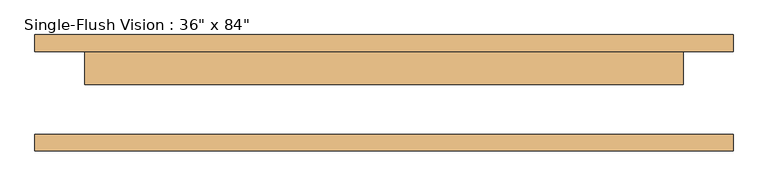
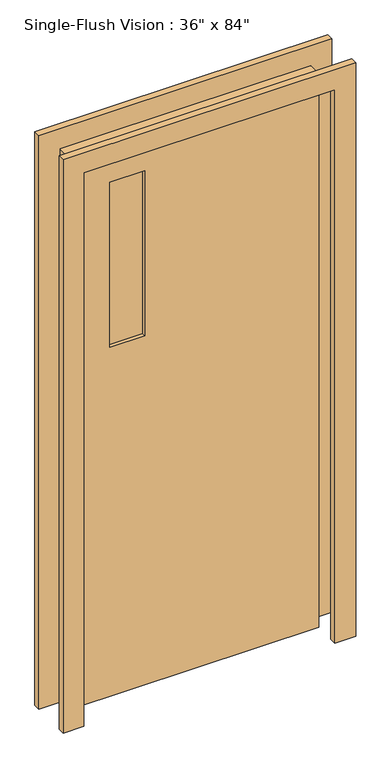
"""IFC4 building model written with IfcOpenShell, lengths in millimetres: door geometry."""

from ifc_helpers import new_model, si_unit, frame, origin, place, context, project, spatial, polyline, outline, extrude, source, transform, mapped, element, save


def door_e12cc5d4(model_context):
    return source(origin(), model_context, "Body", "SweptSolid", [
        extrude(outline(polyline([(2209.8, -533.4), (0.0, -533.4), (0.0, -457.2), (2133.6, -457.2), (2133.6, 457.2), (0.0, 457.2), (0.0, 533.4), (2209.8, 533.4), (2209.8, -533.4)])), frame((0.0, 63.5, 0.0), z_axis=(0.0, 1.0, 0.0), x_axis=(0.0, 0.0, 1.0)), (0.0, 0.0, 1.0), 25.4),
        extrude(outline(polyline([(2133.6, 457.2), (0.0, 457.2), (0.0, 533.4), (2209.8, 533.4), (2209.8, -533.4), (0.0, -533.4), (0.0, -457.2), (2133.6, -457.2), (2133.6, 457.2)])), frame((0.0, -88.9, 0.0), z_axis=(0.0, 1.0, 0.0), x_axis=(0.0, 0.0, 1.0)), (0.0, 0.0, 1.0), 25.4),
        extrude(outline(polyline([(-177.8, 25.4), (-304.8, 25.4), (-304.8, 31.75), (-177.8, 31.75), (-177.8, 25.4)])), frame((0.0, 0.0, 1346.2), z_axis=(0.0, 0.0, 1.0), x_axis=(1.0, 0.0, 0.0)), (0.0, 0.0, 1.0), 635.0),
        extrude(outline(polyline([(-177.8, 44.45), (-304.8, 44.45), (-304.8, 50.8), (-177.8, 50.8), (-177.8, 44.45)])), frame((0.0, 0.0, 1346.2), z_axis=(0.0, 0.0, 1.0), x_axis=(1.0, 0.0, 0.0)), (0.0, 0.0, 1.0), 635.0),
        extrude(outline(polyline([(2133.6, -457.2), (0.0, -457.2), (0.0, 457.2), (2133.6, 457.2), (2133.6, -457.2)]), holes=[polyline([(1981.2, -304.8), (1981.2, -177.8), (1346.2, -177.8), (1346.2, -304.8), (1981.2, -304.8)])]), frame((0.0, 12.7, 0.0), z_axis=(0.0, 1.0, 0.0), x_axis=(0.0, 0.0, 1.0)), (0.0, 0.0, 1.0), 50.8),
    ])


if __name__ == "__main__":
    model = new_model("IFC4")
    model_context = context("Model", 3, world=origin())
    ifc_project = project(units=[si_unit("LENGTHUNIT", "METRE", prefix="MILLI")], contexts=[model_context])
    site = spatial("IfcSite", under=ifc_project)
    building = spatial("IfcBuilding", under=site)
    placement = place(None, origin())
    door_shape = door_e12cc5d4(model_context)
    element("IfcDoor", 1, ObjectType="Single-Flush Vision : 36\" x 84\"", at=placement, inside=building, context=model_context, shape_type="MappedRepresentation", body=[
        mapped(door_shape, transform((0.0, 0.0, 0.0), x_axis=(1.0, 0.0, 0.0), y_axis=(0.0, 1.0, 0.0), z_axis=(0.0, 0.0, 1.0))),
    ])
    save(model, "model.ifc")
